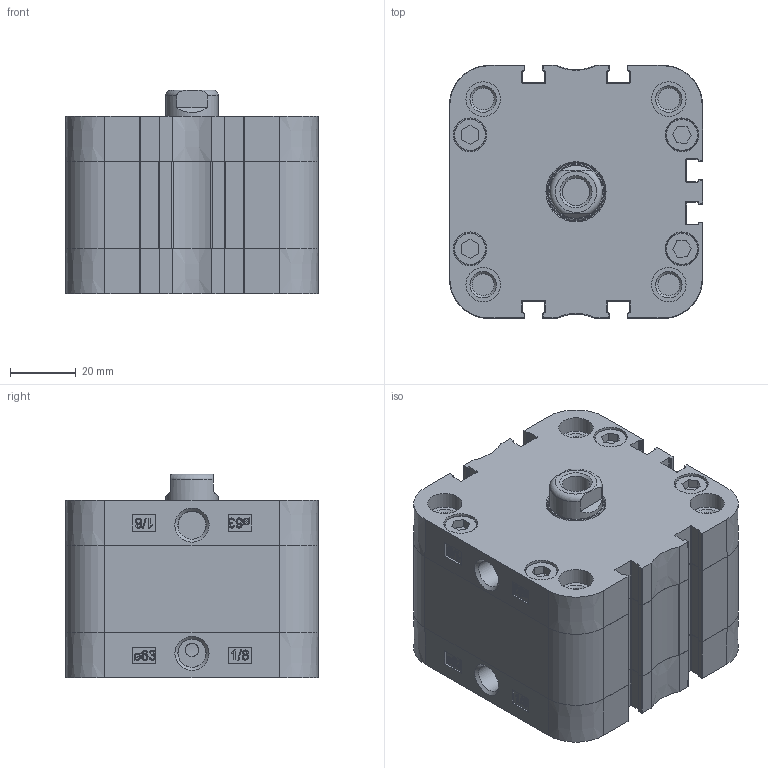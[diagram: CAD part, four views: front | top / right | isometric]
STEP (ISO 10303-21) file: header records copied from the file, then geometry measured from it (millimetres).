
FILE_DESCRIPTION(/* description */ ('Unknown'),/* implementation_level */ '2;1');
FILE_NAME(/* name */ 'ZIN 63_5',/* time_stamp */ '2024-11-12T08:08:57+01:00',/* author */ ('Unknown'),/* organization */ ('HAFNER Pneumatika Kft.'),/* preprocessor_version */ 'ST-DEVELOPER v18.102',/* originating_system */ 'Solid Edge',/* authorisation */ 'Unknown');
FILE_SCHEMA (('AUTOMOTIVE_DESIGN {1 0 10303 214 3 1 1}'));
Length unit declared in the file: millimetre
Products named in the file (5): ZIN 63_5; Kit_1; Kit_2; Kolbenstange; Profilrohr
Assembly tree (4 placements, depth 2):
  ZIN 63_5
    Kit_1
    Kit_2
    Kolbenstange
    Profilrohr
Bounding box: 77 x 77 x 62 mm (x, y, z)
Volume: 276758.7 mm3; surface area: 71608.8 mm2
Topology: 4 solids, 4 shells, 732 faces, 1958 edges, 1300 vertices
Faces by surface type: plane 345, cylinder 212, bspline 124, cone 32, torus 19
Full cylindrical faces by diameter (mm): 4 x1, 6.647 x8, 8.376 x2, 8.566 x2, 9.8 x8, 10.3 x8, 10.5 x8, 12 x1, 16 x1, 16.54 x1, 17.7 x1, 18 x1, 20.5 x1, 63 x2
Entity records: 27675 total; most frequent: CARTESIAN_POINT 5824, ORIENTED_EDGE 3704, DIRECTION 3280, EDGE_CURVE 1852, VERTEX_POINT 1280, AXIS2_PLACEMENT_3D 1096, LINE 1088, VECTOR 1088
